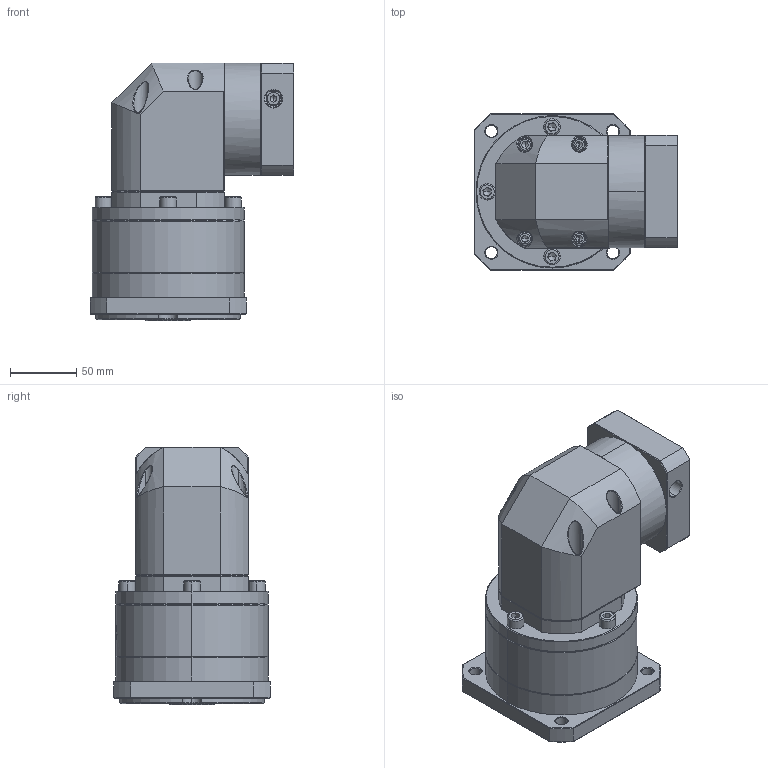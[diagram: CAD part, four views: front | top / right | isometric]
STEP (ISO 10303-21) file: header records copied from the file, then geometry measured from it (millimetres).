
FILE_DESCRIPTION (( 'STEP AP214' ), '1' );
FILE_NAME ('ZFR120A-K25-L2-P2-14-50-70-M5.step', '2023-08-27T09:20:26', ( '' ), ( '' ), 'SwSTEP 2.0', 'SolidWorks 2016', '' );
FILE_SCHEMA (( 'AUTOMOTIVE_DESIGN' ));
Length unit declared in the file: millimetre
Products named in the file (1): ZFR120A-K25-L2-P2-14-50-70-M5
Bounding box: 154.1 x 118 x 195 mm (x, y, z)
Volume: 1835287.2 mm3; surface area: 168058.3 mm2
Topology: 6 solids, 6 shells, 2187 faces, 5669 edges, 3592 vertices
Faces by surface type: plane 1140, bspline 422, cone 314, cylinder 297, torus 14
Entity records: 108921 total; most frequent: CARTESIAN_POINT 36082, ORIENTED_EDGE 11250, DIRECTION 8483, EDGE_CURVE 5625, VERTEX_POINT 3592, VECTOR 3131, LINE 3131, AXIS2_PLACEMENT_3D 2676
